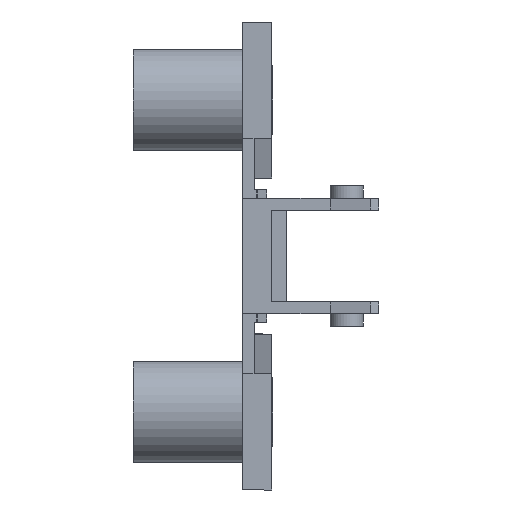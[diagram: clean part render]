
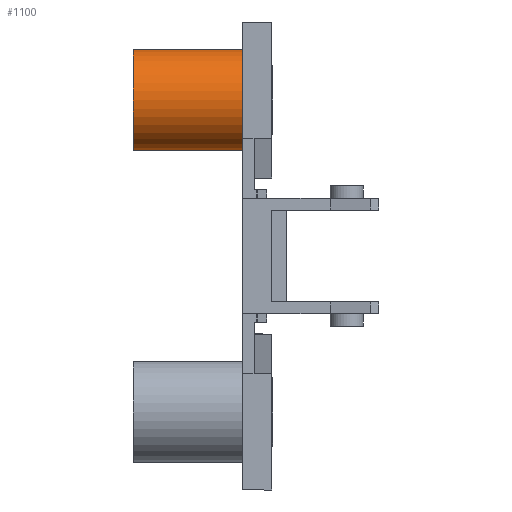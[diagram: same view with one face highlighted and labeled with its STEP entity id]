
A CAD part, front view. The second image highlights one B-rep face of the part: STEP entity #1100.
In plain terms, the highlighted cylindrical face has radius 5.2 mm (diameter 10.4 mm), a partial arc.
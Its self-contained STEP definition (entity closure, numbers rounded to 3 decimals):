
#231 = CARTESIAN_POINT ( 'NONE',  ( -14.7, 0., 21.2 ) ) ;
#252 = DIRECTION ( 'NONE',  ( 0., 0., -1. ) ) ;
#270 = ORIENTED_EDGE ( 'NONE', *, *, #506, .T. ) ;
#458 = VERTEX_POINT ( 'NONE', #3089 ) ;
#506 = EDGE_CURVE ( 'NONE', #2503, #458, #1498, .T. ) ;
#569 = DIRECTION ( 'NONE',  ( 0., 0., -1. ) ) ;
#679 = DIRECTION ( 'NONE',  ( -1., 0., 0. ) ) ;
#722 = EDGE_CURVE ( 'NONE', #2503, #1593, #882, .T. ) ;
#745 = CARTESIAN_POINT ( 'NONE',  ( -14.7, 0., 10.8 ) ) ;
#851 = CARTESIAN_POINT ( 'NONE',  ( -14.7, 0., 10.8 ) ) ;
#882 = CIRCLE ( 'NONE', #2706, 5.2 ) ;
#917 = EDGE_CURVE ( 'NONE', #1593, #3404, #1975, .T. ) ;
#947 = EDGE_LOOP ( 'NONE', ( #2332, #1707, #270, #1189 ) ) ;
#1015 = AXIS2_PLACEMENT_3D ( 'NONE', #1860, #1594, #569 ) ;
#1037 = CARTESIAN_POINT ( 'NONE',  ( -14.7, 0., 21.2 ) ) ;
#1100 = ADVANCED_FACE ( 'NONE', ( #2922 ), #2315, .T. ) ;
#1189 = ORIENTED_EDGE ( 'NONE', *, *, #3334, .T. ) ;
#1201 = VECTOR ( 'NONE', #3391, 1000. ) ;
#1498 = LINE ( 'NONE', #745, #1201 ) ;
#1540 = CARTESIAN_POINT ( 'NONE',  ( -14.7, 0., 16. ) ) ;
#1589 = AXIS2_PLACEMENT_3D ( 'NONE', #1540, #2108, #252 ) ;
#1593 = VERTEX_POINT ( 'NONE', #1037 ) ;
#1594 = DIRECTION ( 'NONE',  ( -1., 0., 0. ) ) ;
#1707 = ORIENTED_EDGE ( 'NONE', *, *, #722, .F. ) ;
#1860 = CARTESIAN_POINT ( 'NONE',  ( -3.5, 0., 16. ) ) ;
#1975 = LINE ( 'NONE', #231, #3384 ) ;
#2108 = DIRECTION ( 'NONE',  ( 1., 0., 0. ) ) ;
#2315 = CYLINDRICAL_SURFACE ( 'NONE', #1589, 5.2 ) ;
#2332 = ORIENTED_EDGE ( 'NONE', *, *, #917, .F. ) ;
#2503 = VERTEX_POINT ( 'NONE', #851 ) ;
#2626 = DIRECTION ( 'NONE',  ( 0., 0., 1. ) ) ;
#2706 = AXIS2_PLACEMENT_3D ( 'NONE', #3484, #679, #2626 ) ;
#2763 = CARTESIAN_POINT ( 'NONE',  ( -3.5, 0., 21.2 ) ) ;
#2854 = CIRCLE ( 'NONE', #1015, 5.2 ) ;
#2922 = FACE_OUTER_BOUND ( 'NONE', #947, .T. ) ;
#3037 = DIRECTION ( 'NONE',  ( 1., 0., 0. ) ) ;
#3089 = CARTESIAN_POINT ( 'NONE',  ( -3.5, 0., 10.8 ) ) ;
#3334 = EDGE_CURVE ( 'NONE', #458, #3404, #2854, .T. ) ;
#3384 = VECTOR ( 'NONE', #3037, 1000. ) ;
#3391 = DIRECTION ( 'NONE',  ( 1., 0., 0. ) ) ;
#3404 = VERTEX_POINT ( 'NONE', #2763 ) ;
#3484 = CARTESIAN_POINT ( 'NONE',  ( -14.7, 0., 16. ) ) ;
